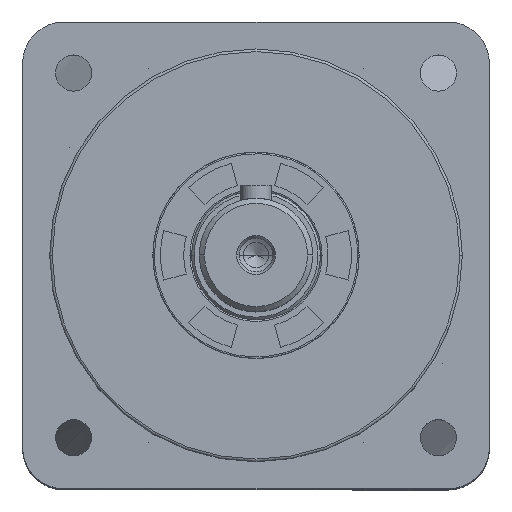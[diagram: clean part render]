
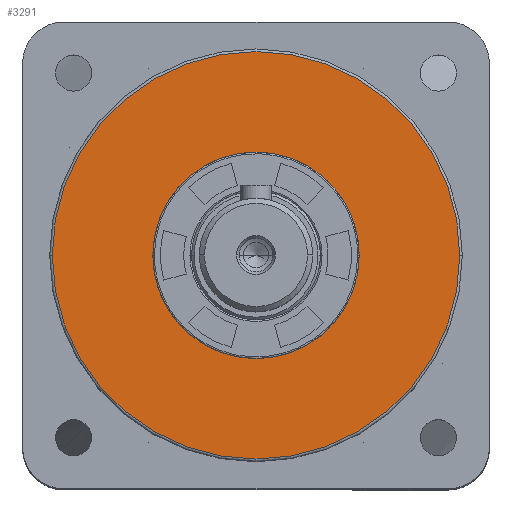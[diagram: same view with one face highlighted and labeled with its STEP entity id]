
A CAD part, top view. The second image highlights one B-rep face of the part: STEP entity #3291.
In plain terms, the highlighted planar face has unit normal (0, 0, 1).
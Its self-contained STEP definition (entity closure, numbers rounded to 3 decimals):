
#12 = CARTESIAN_POINT ( 'NONE',  ( 0., 0., 26.1 ) ) ;
#3291 = ADVANCED_FACE ( 'NONE', ( #27672, #26544 ), #5012, .T. ) ;
#4361 = CARTESIAN_POINT ( 'NONE',  ( -20., 0., 26.1 ) ) ;
#5012 = PLANE ( 'NONE',  #23990 ) ;
#5298 = VERTEX_POINT ( 'NONE', #24667 ) ;
#6376 = ORIENTED_EDGE ( 'NONE', *, *, #23740, .T. ) ;
#6950 = AXIS2_PLACEMENT_3D ( 'NONE', #29709, #25010, #7882 ) ;
#7201 = DIRECTION ( 'NONE',  ( 0., 0., 1. ) ) ;
#7265 = CIRCLE ( 'NONE', #17492, 39.5 ) ;
#7882 = DIRECTION ( 'NONE',  ( 1., 0., 0. ) ) ;
#8568 = VERTEX_POINT ( 'NONE', #30725 ) ;
#8600 = CARTESIAN_POINT ( 'NONE',  ( 0., 0., 26.1 ) ) ;
#9538 = DIRECTION ( 'NONE',  ( 1., 0., 0. ) ) ;
#9786 = AXIS2_PLACEMENT_3D ( 'NONE', #8600, #25625, #15911 ) ;
#10435 = VERTEX_POINT ( 'NONE', #25620 ) ;
#12338 = EDGE_CURVE ( 'NONE', #5298, #10435, #7265, .T. ) ;
#14239 = EDGE_CURVE ( 'NONE', #29349, #8568, #24715, .T. ) ;
#15840 = AXIS2_PLACEMENT_3D ( 'NONE', #26744, #26431, #9538 ) ;
#15911 = DIRECTION ( 'NONE',  ( 1., 0., 0. ) ) ;
#17093 = DIRECTION ( 'NONE',  ( 1., 0., 0. ) ) ;
#17492 = AXIS2_PLACEMENT_3D ( 'NONE', #26246, #7201, #21445 ) ;
#19431 = EDGE_LOOP ( 'NONE', ( #21213, #23462 ) ) ;
#20261 = CIRCLE ( 'NONE', #9786, 39.5 ) ;
#20929 = EDGE_LOOP ( 'NONE', ( #6376, #31546 ) ) ;
#21213 = ORIENTED_EDGE ( 'NONE', *, *, #22345, .F. ) ;
#21445 = DIRECTION ( 'NONE',  ( 1., 0., 0. ) ) ;
#22345 = EDGE_CURVE ( 'NONE', #8568, #29349, #31391, .T. ) ;
#23462 = ORIENTED_EDGE ( 'NONE', *, *, #14239, .F. ) ;
#23740 = EDGE_CURVE ( 'NONE', #10435, #5298, #20261, .T. ) ;
#23990 = AXIS2_PLACEMENT_3D ( 'NONE', #12, #26897, #17093 ) ;
#24667 = CARTESIAN_POINT ( 'NONE',  ( -39.5, 0., 26.1 ) ) ;
#24715 = CIRCLE ( 'NONE', #6950, 20. ) ;
#25010 = DIRECTION ( 'NONE',  ( 0., 0., 1. ) ) ;
#25620 = CARTESIAN_POINT ( 'NONE',  ( 39.5, 0., 26.1 ) ) ;
#25625 = DIRECTION ( 'NONE',  ( 0., 0., 1. ) ) ;
#26246 = CARTESIAN_POINT ( 'NONE',  ( 0., 0., 26.1 ) ) ;
#26431 = DIRECTION ( 'NONE',  ( 0., 0., 1. ) ) ;
#26544 = FACE_BOUND ( 'NONE', #19431, .T. ) ;
#26744 = CARTESIAN_POINT ( 'NONE',  ( 0., 0., 26.1 ) ) ;
#26897 = DIRECTION ( 'NONE',  ( 0., 0., 1. ) ) ;
#27672 = FACE_OUTER_BOUND ( 'NONE', #20929, .T. ) ;
#29349 = VERTEX_POINT ( 'NONE', #4361 ) ;
#29709 = CARTESIAN_POINT ( 'NONE',  ( 0., 0., 26.1 ) ) ;
#30725 = CARTESIAN_POINT ( 'NONE',  ( 20., 0., 26.1 ) ) ;
#31391 = CIRCLE ( 'NONE', #15840, 20. ) ;
#31546 = ORIENTED_EDGE ( 'NONE', *, *, #12338, .T. ) ;
